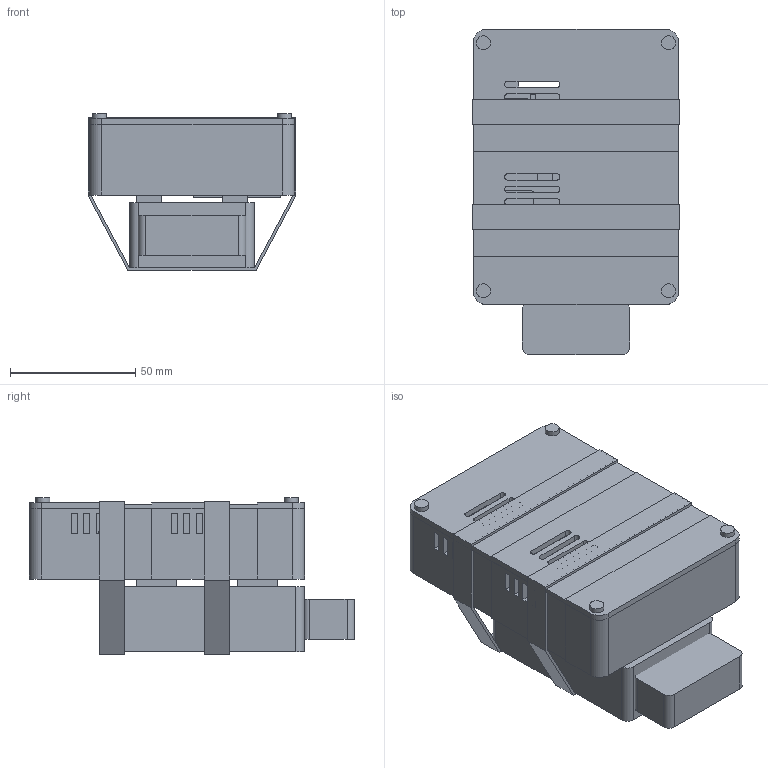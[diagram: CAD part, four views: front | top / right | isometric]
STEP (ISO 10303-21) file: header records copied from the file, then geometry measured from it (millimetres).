
FILE_DESCRIPTION(('Open CASCADE Model'),'2;1');
FILE_NAME('ELM backpack B - DIRECT SOLDER - FIT CHECK REQUIRED', '2026-09-07T22:19:27',('Author'),('Open CASCADE'), 'Open CASCADE STEP processor 7.9','build123d','Unknown');
FILE_SCHEMA(('AUTOMOTIVE_DESIGN { 1 0 10303 214 1 1 1 1 }'));
Length unit declared in the file: millimetre
Products named in the file (104): ELM backpack B - DIRECT SOLDER - FIT CHECK REQUIRED; base; lid; buck keeper 4; REF buck PCB; REF buck input DC jack; REF buck input terminal; REF terminal screw; REF buck output terminal; REF buck input capacitor; REF buck output capacitor; REF buck inductor; REF buck controller; REF buck USB C; REF ESP PCB; REF ESP antenna - no tie here; REF ESP RF shield - tie here; REF ESP USB C; REF ESP solder pad; REF direct solder joint; REF ESP button; REF ESP RGB LED; REF insulating support pad; REF keeper toe pad - compressed; REF mounting silicone pad; REF ELM shell - UNMEASURED; REF OBD plug - UNMEASURED; REF M3 x 10 screw; REF M3 x 6 screw; REF reusable 10 mm strap; REF ESP retaining nylon tie
Assembly tree (106 placements, depth 2):
  ELM backpack B - DIRECT SOLDER - FIT CHECK REQUIRED
    base
    lid
    buck keeper 4  x4
    REF buck PCB
    REF buck input DC jack
    REF buck input terminal
    REF terminal screw
    REF terminal screw
    REF buck output terminal
    REF terminal screw
    REF terminal screw
    REF buck input capacitor
    REF buck output capacitor
    REF buck inductor
    REF buck controller
    REF buck USB C
    REF ESP PCB
    REF ESP antenna - no tie here
    REF ESP RF shield - tie here
    REF ESP USB C
    REF ESP USB C
    REF ESP solder pad
    REF ESP solder pad
    REF ESP solder pad
    REF ESP solder pad
    REF ESP solder pad
    REF ESP solder pad
    REF ESP solder pad
    REF ESP solder pad
    REF ESP solder pad
    REF ESP solder pad
    REF ESP solder pad
    REF ESP solder pad
    REF ESP solder pad
    REF ESP solder pad
    REF ESP solder pad
    REF ESP solder pad
    REF ESP solder pad
    REF ESP solder pad
    REF ESP solder pad
    REF ESP solder pad
    REF ESP solder pad
    REF ESP solder pad
    REF direct solder joint
    REF direct solder joint
    REF direct solder joint
    REF direct solder joint
    REF ESP solder pad
    REF ESP solder pad
    REF ESP solder pad
    REF ESP solder pad
    REF ESP solder pad
    REF ESP solder pad
    REF ESP solder pad
    REF ESP solder pad
    REF ESP solder pad
    REF ESP solder pad
    REF ESP solder pad
    REF ESP solder pad
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Bounding box: 82.8 x 130 x 62.4 mm (x, y, z)
Volume: 204635.5 mm3; surface area: 107756.3 mm2
Topology: 106 solids, 106 shells, 809 faces, 1669 edges, 1110 vertices
Faces by surface type: plane 635, cylinder 174
Full cylindrical faces by diameter (mm): 1.4 x44, 1.5 x8, 2.6 x8, 3 x8, 3.4 x12, 5.6 x8, 6.4 x4, 9 x1, 10 x1
Entity records: 45112 total; most frequent: CARTESIAN_POINT 8059, DIRECTION 6386, LINE 3644, VECTOR 3644, ORIENTED_EDGE 3248, PCURVE 3248, DEFINITIONAL_REPRESENTATION 3248, EDGE_CURVE 1624
